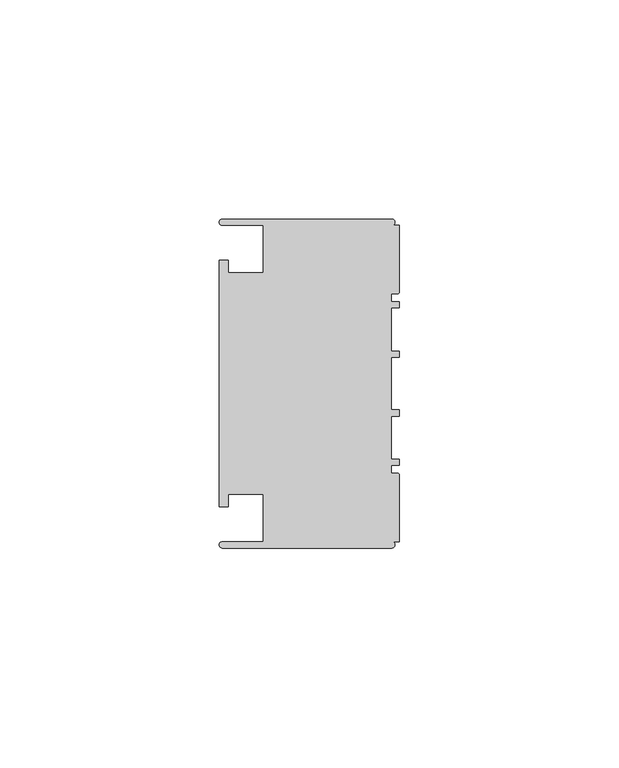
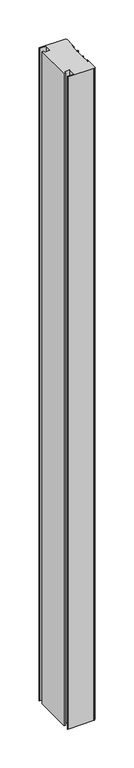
"""IFC4 building model written with IfcOpenShell, lengths in millimetres: member geometry, Прямоугольный импост : 3-AMG-2-Профиль 40Х75 Верх П."""

from ifc_helpers import new_model, si_unit, point, frame, frame_2d, origin, place, context, project, spatial, polyline, circle_curve, trimmed, segment, composite_curve, outline, extrude, source, transform, mapped, element, save


def member_facdff5d(model_context):
    return source(origin(), model_context, "Body", "SweptSolid", [
        extrude(outline(composite_curve([segment(polyline([(-1.7, -37.5), (-40.4, -37.5)]), True, "CONTINUOUS"), segment(trimmed(circle_curve(frame_2d((-40.4, -36.8)), 0.7), [point((-40.4, -37.5))], [point((-40.4, -36.1))], False, "CARTESIAN"), True, "CONTINUOUS"), segment(polyline([(-40.4, -36.1), (-31.0, -36.1), (-31.0, -25.25), (-39.0, -25.25), (-39.0, -28.1), (-41.1, -28.1), (-41.1, 28.1), (-39.0, 28.1), (-39.0, 25.25), (-31.0, 25.25), (-31.0, 36.1), (-40.4, 36.1)]), True, "CONTINUOUS"), segment(trimmed(circle_curve(frame_2d((-40.4, 36.8)), 0.7), [point((-40.4, 36.1))], [point((-40.4, 37.5))], False, "CARTESIAN"), True, "CONTINUOUS"), segment(polyline([(-40.4, 37.5), (-1.7, 37.5)]), True, "CONTINUOUS"), segment(trimmed(circle_curve(frame_2d((-1.7, 36.8)), 0.7), [point((-1.7, 37.5))], [point((-1.7, 36.1))], False, "CARTESIAN"), True, "CONTINUOUS"), segment(polyline([(-1.7, 36.1), (0.0, 36.1), (0.0, 20.95)]), True, "CONTINUOUS"), segment(trimmed(circle_curve(frame_2d((-0.5, 20.95)), 0.5), [point((0.0, 20.95))], [point((-0.5, 20.45))], False, "CARTESIAN"), True, "CONTINUOUS"), segment(polyline([(-0.5, 20.45), (-1.8, 20.45), (-1.8, 18.65), (0.0, 18.65), (0.0, 17.25), (-1.8, 17.25), (-1.8, 7.4), (0.0, 7.4), (0.0, 6.0), (-1.8, 6.0), (-1.8, -6.0), (0.0, -6.0), (0.0, -7.4), (-1.8, -7.4), (-1.8, -17.25), (0.0, -17.25), (0.0, -18.65), (-1.8, -18.65), (-1.8, -20.45), (-0.5, -20.45)]), True, "CONTINUOUS"), segment(trimmed(circle_curve(frame_2d((-0.5, -20.95)), 0.5), [point((-0.5, -20.45))], [point((0.0, -20.95))], False, "CARTESIAN"), True, "CONTINUOUS"), segment(polyline([(0.0, -20.95), (0.0, -36.1), (-1.7, -36.1)]), True, "CONTINUOUS"), segment(trimmed(circle_curve(frame_2d((-1.7, -36.8)), 0.7), [point((-1.7, -36.1))], [point((-1.7, -37.5))], False, "CARTESIAN"), True, "CONTINUOUS")], self_intersect=False)), frame((0.0, 0.0, -1025.4988789), z_axis=(0.0, 0.0, 1.0), x_axis=(1.0, 0.0, 0.0)), (0.0, 0.0, 1.0), 1025.4988789),
    ])


if __name__ == "__main__":
    model = new_model("IFC4")
    model_context = context("Model", 3, world=origin())
    ifc_project = project(units=[si_unit("LENGTHUNIT", "METRE", prefix="MILLI")], contexts=[model_context])
    site = spatial("IfcSite", under=ifc_project)
    building = spatial("IfcBuilding", under=site)
    placement = place(None, origin())
    member_shape = member_facdff5d(model_context)
    element("IfcMember", 1, ObjectType="Прямоугольный импост : 3-AMG-2-Профиль 40Х75 Верх П", at=placement, inside=building, context=model_context, shape_type="MappedRepresentation", body=[
        mapped(member_shape, transform((0.0, 0.0, 0.0), x_axis=(1.0, 0.0, 0.0), y_axis=(0.0, 1.0, 0.0), z_axis=(0.0, 0.0, 1.0))),
    ])
    save(model, "model.ifc")
